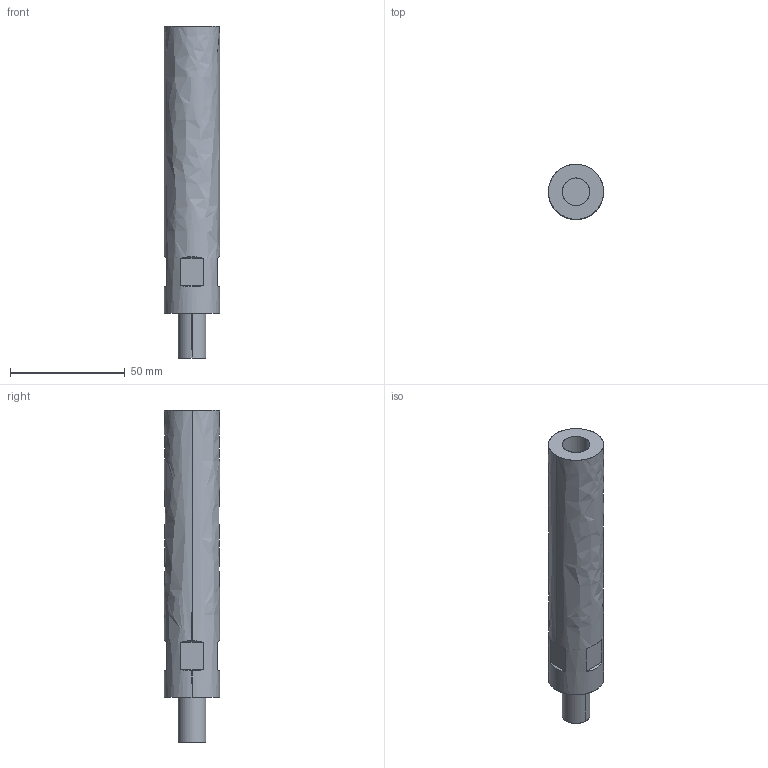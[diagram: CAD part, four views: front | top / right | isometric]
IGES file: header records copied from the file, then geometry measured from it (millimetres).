
Start section: SolidWorks IGES file using analytic representation for surfaces
Global section: file name: X:\11_SW2020-Inv2020\00_全2021-11新製品まで\b\BJ601-12125\bj601-12125.IGS; native system: SolidWorks 2020; preprocessor: SolidWorks 2020; author: ImaoCorp; date: 211025.085526; units: millimetre
Bounding box: 24 x 24 x 144.5 mm (x, y, z)
Surface area: 12211.7 mm2 (no closed solid volume)
Topology: 0 solids, 0 shells, 22 faces, 348 edges, 348 vertices
Faces by surface type: bspline 16, revolution 6
